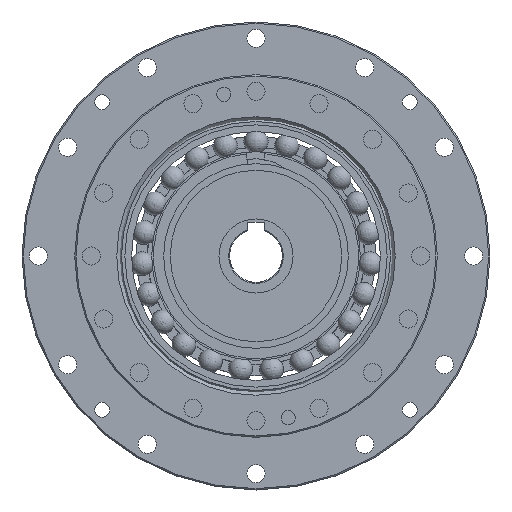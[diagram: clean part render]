
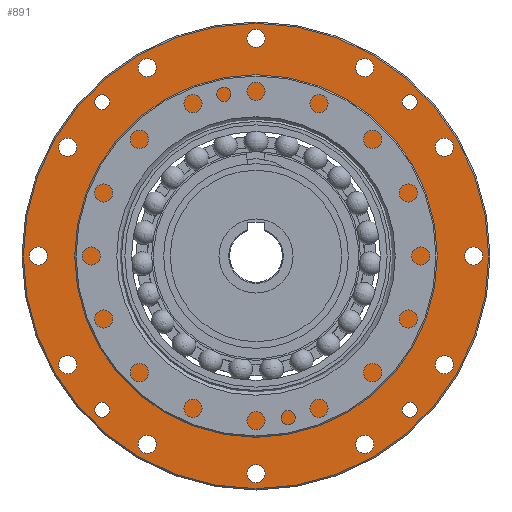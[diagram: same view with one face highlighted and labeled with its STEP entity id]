
A CAD part, left-side view. The second image highlights one B-rep face of the part: STEP entity #891.
In plain terms, the highlighted planar face has unit normal (-1, 0, 0).
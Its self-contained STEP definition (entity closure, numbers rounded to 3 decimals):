
#891=ADVANCED_FACE('',(#1235,#1236,#1237,#1238,#1239,#1240,#1241,#1242,
#1243,#1244,#1245,#1246,#1247,#1248,#1249,#1250,#1251,#1252),#1099,.F.);
#1099=PLANE('',#3991);
#1235=FACE_BOUND('',#1512,.T.);
#1236=FACE_BOUND('',#1513,.T.);
#1237=FACE_BOUND('',#1514,.T.);
#1238=FACE_BOUND('',#1515,.T.);
#1239=FACE_BOUND('',#1516,.T.);
#1240=FACE_BOUND('',#1517,.T.);
#1241=FACE_BOUND('',#1518,.T.);
#1242=FACE_BOUND('',#1519,.T.);
#1243=FACE_BOUND('',#1520,.T.);
#1244=FACE_BOUND('',#1521,.T.);
#1245=FACE_BOUND('',#1522,.T.);
#1246=FACE_BOUND('',#1523,.T.);
#1247=FACE_BOUND('',#1524,.T.);
#1248=FACE_BOUND('',#1525,.T.);
#1249=FACE_BOUND('',#1526,.T.);
#1250=FACE_BOUND('',#1527,.T.);
#1251=FACE_BOUND('',#1528,.T.);
#1252=FACE_BOUND('',#1529,.T.);
#1512=EDGE_LOOP('',(#1882));
#1513=EDGE_LOOP('',(#1883));
#1514=EDGE_LOOP('',(#1884));
#1515=EDGE_LOOP('',(#1885));
#1516=EDGE_LOOP('',(#1886));
#1517=EDGE_LOOP('',(#1887));
#1518=EDGE_LOOP('',(#1888));
#1519=EDGE_LOOP('',(#1889));
#1520=EDGE_LOOP('',(#1890));
#1521=EDGE_LOOP('',(#1891));
#1522=EDGE_LOOP('',(#1892));
#1523=EDGE_LOOP('',(#1893));
#1524=EDGE_LOOP('',(#1894));
#1525=EDGE_LOOP('',(#1895));
#1526=EDGE_LOOP('',(#1896));
#1527=EDGE_LOOP('',(#1897));
#1528=EDGE_LOOP('',(#1898));
#1529=EDGE_LOOP('',(#1899));
#1882=ORIENTED_EDGE('',*,*,#3168,.T.);
#1883=ORIENTED_EDGE('',*,*,#3167,.T.);
#1884=ORIENTED_EDGE('',*,*,#3166,.T.);
#1885=ORIENTED_EDGE('',*,*,#3165,.T.);
#1886=ORIENTED_EDGE('',*,*,#3164,.T.);
#1887=ORIENTED_EDGE('',*,*,#3163,.T.);
#1888=ORIENTED_EDGE('',*,*,#3162,.T.);
#1889=ORIENTED_EDGE('',*,*,#3161,.T.);
#1890=ORIENTED_EDGE('',*,*,#3160,.T.);
#1891=ORIENTED_EDGE('',*,*,#3159,.T.);
#1892=ORIENTED_EDGE('',*,*,#3158,.T.);
#1893=ORIENTED_EDGE('',*,*,#3157,.T.);
#1894=ORIENTED_EDGE('',*,*,#3156,.T.);
#1895=ORIENTED_EDGE('',*,*,#3155,.T.);
#1896=ORIENTED_EDGE('',*,*,#3154,.T.);
#1897=ORIENTED_EDGE('',*,*,#3153,.T.);
#1898=ORIENTED_EDGE('',*,*,#3152,.T.);
#1899=ORIENTED_EDGE('',*,*,#3151,.T.);
#2775=VERTEX_POINT('',#5437);
#2776=VERTEX_POINT('',#5440);
#2777=VERTEX_POINT('',#5443);
#2778=VERTEX_POINT('',#5446);
#2779=VERTEX_POINT('',#5449);
#2780=VERTEX_POINT('',#5452);
#2781=VERTEX_POINT('',#5455);
#2782=VERTEX_POINT('',#5458);
#2783=VERTEX_POINT('',#5461);
#2784=VERTEX_POINT('',#5464);
#2785=VERTEX_POINT('',#5467);
#2786=VERTEX_POINT('',#5470);
#2787=VERTEX_POINT('',#5473);
#2788=VERTEX_POINT('',#5476);
#2789=VERTEX_POINT('',#5479);
#2790=VERTEX_POINT('',#5482);
#2791=VERTEX_POINT('',#5485);
#2792=VERTEX_POINT('',#5488);
#3151=EDGE_CURVE('',#2775,#2775,#3705,.T.);
#3152=EDGE_CURVE('',#2776,#2776,#3706,.T.);
#3153=EDGE_CURVE('',#2777,#2777,#3707,.T.);
#3154=EDGE_CURVE('',#2778,#2778,#3708,.T.);
#3155=EDGE_CURVE('',#2779,#2779,#3709,.T.);
#3156=EDGE_CURVE('',#2780,#2780,#3710,.T.);
#3157=EDGE_CURVE('',#2781,#2781,#3711,.T.);
#3158=EDGE_CURVE('',#2782,#2782,#3712,.T.);
#3159=EDGE_CURVE('',#2783,#2783,#3713,.T.);
#3160=EDGE_CURVE('',#2784,#2784,#3714,.T.);
#3161=EDGE_CURVE('',#2785,#2785,#3715,.T.);
#3162=EDGE_CURVE('',#2786,#2786,#3716,.T.);
#3163=EDGE_CURVE('',#2787,#2787,#3717,.T.);
#3164=EDGE_CURVE('',#2788,#2788,#3718,.T.);
#3165=EDGE_CURVE('',#2789,#2789,#3719,.T.);
#3166=EDGE_CURVE('',#2790,#2790,#3720,.T.);
#3167=EDGE_CURVE('',#2791,#2791,#3721,.T.);
#3168=EDGE_CURVE('',#2792,#2792,#3722,.T.);
#3705=CIRCLE('',#3956,70.6);
#3706=CIRCLE('',#3958,2.75);
#3707=CIRCLE('',#3960,2.75);
#3708=CIRCLE('',#3962,2.75);
#3709=CIRCLE('',#3964,2.75);
#3710=CIRCLE('',#3966,2.75);
#3711=CIRCLE('',#3968,2.75);
#3712=CIRCLE('',#3970,2.75);
#3713=CIRCLE('',#3972,2.75);
#3714=CIRCLE('',#3974,2.75);
#3715=CIRCLE('',#3976,2.75);
#3716=CIRCLE('',#3978,2.75);
#3717=CIRCLE('',#3980,2.75);
#3718=CIRCLE('',#3982,2.25);
#3719=CIRCLE('',#3984,2.25);
#3720=CIRCLE('',#3986,2.25);
#3721=CIRCLE('',#3988,2.25);
#3722=CIRCLE('',#3990,42.37);
#3956=AXIS2_PLACEMENT_3D('',#5436,#4452,#4453);
#3958=AXIS2_PLACEMENT_3D('',#5439,#4456,#4457);
#3960=AXIS2_PLACEMENT_3D('',#5442,#4460,#4461);
#3962=AXIS2_PLACEMENT_3D('',#5445,#4464,#4465);
#3964=AXIS2_PLACEMENT_3D('',#5448,#4468,#4469);
#3966=AXIS2_PLACEMENT_3D('',#5451,#4472,#4473);
#3968=AXIS2_PLACEMENT_3D('',#5454,#4476,#4477);
#3970=AXIS2_PLACEMENT_3D('',#5457,#4480,#4481);
#3972=AXIS2_PLACEMENT_3D('',#5460,#4484,#4485);
#3974=AXIS2_PLACEMENT_3D('',#5463,#4488,#4489);
#3976=AXIS2_PLACEMENT_3D('',#5466,#4492,#4493);
#3978=AXIS2_PLACEMENT_3D('',#5469,#4496,#4497);
#3980=AXIS2_PLACEMENT_3D('',#5472,#4500,#4501);
#3982=AXIS2_PLACEMENT_3D('',#5475,#4504,#4505);
#3984=AXIS2_PLACEMENT_3D('',#5478,#4508,#4509);
#3986=AXIS2_PLACEMENT_3D('',#5481,#4512,#4513);
#3988=AXIS2_PLACEMENT_3D('',#5484,#4516,#4517);
#3990=AXIS2_PLACEMENT_3D('',#5487,#4520,#4521);
#3991=AXIS2_PLACEMENT_3D('',#5489,#4522,#4523);
#4452=DIRECTION('',(-1.,0.,0.));
#4453=DIRECTION('',(0.,0.,-1.));
#4456=DIRECTION('',(1.,0.,0.));
#4457=DIRECTION('',(0.,0.,-1.));
#4460=DIRECTION('',(1.,0.,0.));
#4461=DIRECTION('',(0.,0.,-1.));
#4464=DIRECTION('',(1.,0.,0.));
#4465=DIRECTION('',(0.,0.,-1.));
#4468=DIRECTION('',(1.,0.,0.));
#4469=DIRECTION('',(0.,0.,-1.));
#4472=DIRECTION('',(1.,0.,0.));
#4473=DIRECTION('',(0.,0.,-1.));
#4476=DIRECTION('',(1.,0.,0.));
#4477=DIRECTION('',(0.,0.,-1.));
#4480=DIRECTION('',(1.,0.,0.));
#4481=DIRECTION('',(0.,0.,-1.));
#4484=DIRECTION('',(1.,0.,0.));
#4485=DIRECTION('',(0.,0.,-1.));
#4488=DIRECTION('',(1.,0.,0.));
#4489=DIRECTION('',(0.,0.,-1.));
#4492=DIRECTION('',(1.,0.,0.));
#4493=DIRECTION('',(0.,0.,-1.));
#4496=DIRECTION('',(1.,0.,0.));
#4497=DIRECTION('',(0.,0.,-1.));
#4500=DIRECTION('',(1.,0.,0.));
#4501=DIRECTION('',(0.,0.,-1.));
#4504=DIRECTION('',(1.,0.,0.));
#4505=DIRECTION('',(0.,0.,-1.));
#4508=DIRECTION('',(1.,0.,0.));
#4509=DIRECTION('',(0.,0.,-1.));
#4512=DIRECTION('',(1.,0.,0.));
#4513=DIRECTION('',(0.,0.,-1.));
#4516=DIRECTION('',(1.,0.,0.));
#4517=DIRECTION('',(0.,0.,-1.));
#4520=DIRECTION('',(1.,0.,0.));
#4521=DIRECTION('',(0.,0.,-1.));
#4522=DIRECTION('',(1.,0.,0.));
#4523=DIRECTION('',(0.,0.,-1.));
#5436=CARTESIAN_POINT('',(38.8,0.,0.));
#5437=CARTESIAN_POINT('',(38.8,0.,-70.6));
#5439=CARTESIAN_POINT('',(38.8,66.,0.));
#5440=CARTESIAN_POINT('',(38.8,66.,-2.75));
#5442=CARTESIAN_POINT('',(38.8,57.158,33.));
#5443=CARTESIAN_POINT('',(38.8,57.158,30.25));
#5445=CARTESIAN_POINT('',(38.8,33.,57.158));
#5446=CARTESIAN_POINT('',(38.8,33.,54.408));
#5448=CARTESIAN_POINT('',(38.8,0.,66.));
#5449=CARTESIAN_POINT('',(38.8,0.,63.25));
#5451=CARTESIAN_POINT('',(38.8,-33.,57.158));
#5452=CARTESIAN_POINT('',(38.8,-33.,54.408));
#5454=CARTESIAN_POINT('',(38.8,-57.158,33.));
#5455=CARTESIAN_POINT('',(38.8,-57.158,30.25));
#5457=CARTESIAN_POINT('',(38.8,-66.,0.));
#5458=CARTESIAN_POINT('',(38.8,-66.,-2.75));
#5460=CARTESIAN_POINT('',(38.8,-57.158,-33.));
#5461=CARTESIAN_POINT('',(38.8,-57.158,-35.75));
#5463=CARTESIAN_POINT('',(38.8,-33.,-57.158));
#5464=CARTESIAN_POINT('',(38.8,-33.,-59.908));
#5466=CARTESIAN_POINT('',(38.8,0.,-66.));
#5467=CARTESIAN_POINT('',(38.8,0.,-68.75));
#5469=CARTESIAN_POINT('',(38.8,33.,-57.158));
#5470=CARTESIAN_POINT('',(38.8,33.,-59.908));
#5472=CARTESIAN_POINT('',(38.8,57.158,-33.));
#5473=CARTESIAN_POINT('',(38.8,57.158,-35.75));
#5475=CARTESIAN_POINT('',(38.8,46.669,-46.669));
#5476=CARTESIAN_POINT('',(38.8,46.669,-48.919));
#5478=CARTESIAN_POINT('',(38.8,-46.669,-46.669));
#5479=CARTESIAN_POINT('',(38.8,-46.669,-48.919));
#5481=CARTESIAN_POINT('',(38.8,-46.669,46.669));
#5482=CARTESIAN_POINT('',(38.8,-46.669,44.419));
#5484=CARTESIAN_POINT('',(38.8,46.669,46.669));
#5485=CARTESIAN_POINT('',(38.8,46.669,44.419));
#5487=CARTESIAN_POINT('',(38.8,0.,0.));
#5488=CARTESIAN_POINT('',(38.8,0.,-42.37));
#5489=CARTESIAN_POINT('',(38.8,57.,0.));
